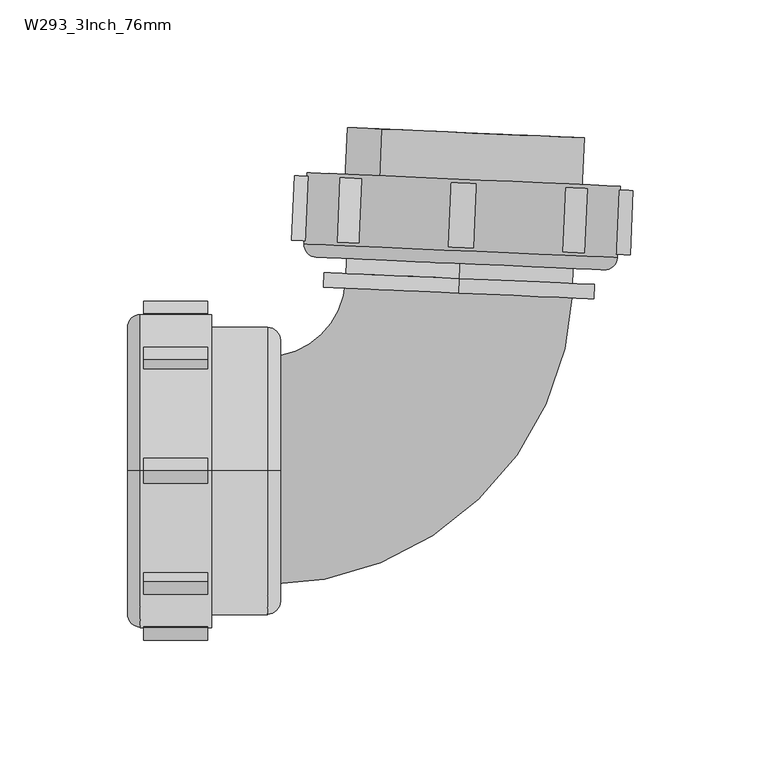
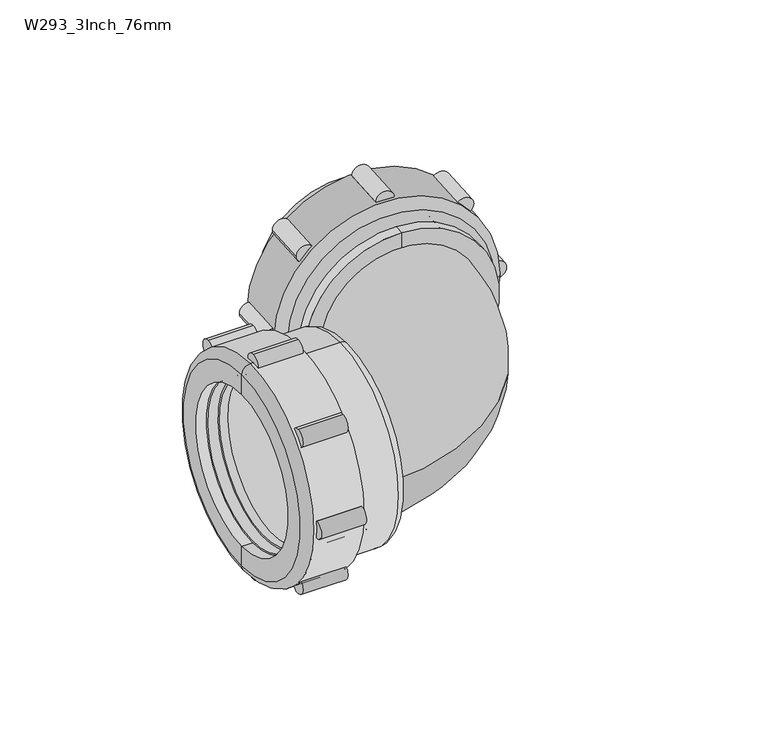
"""IFC4 building model written with IfcOpenShell, lengths in millimetres: pipe fitting geometry, Durapipe_PipeFitting_VulcatheneMechanical_92.5LooseNutSweepBend_W29 : W293_3Inch_76mm."""

from ifc_helpers import new_model, si_unit, point, frame, frame_2d, origin, place, context, project, spatial, polyline, circle_curve, ellipse_curve, trimmed, segment, composite_curve, outline, extrude, source, transform, mapped, element, save
from ifc_brep_helpers import plane_surface, cylinder_surface, revolved_surface, advanced_brep


def w293_3inch_76mm_a8444400(model_context):
    return source(origin(), model_context, "Body", "SolidModel", [
        advanced_brep(
        [(-32.1347694, 89.1243828, 35.9917352), (-27.4723065, 88.9208153, 31.3248304), (35.1177258, 86.1880755, -31.3248304), (39.7801886, 85.984508, -35.9917352), (37.5573536, 106.4008985, -32.8804653), (-28.1409872, 109.2693501, 32.8804653), (-27.0635883, 133.9458411, 32.8804653), (38.6347525, 131.0773896, -32.8804653), (37.0805982, 131.1452455, -31.3248304), (-25.509434, 133.8779853, 31.3248304), (35.5844532, 96.8778915, -31.3248304), (-27.005579, 99.6106313, 31.3248304), (34.9486628, 96.9056507, -30.6884343), (-26.3697886, 99.5828721, 30.6884343), (-27.2062282, 95.0150095, 31.3248304), (-26.5704378, 94.9872503, 30.6884343), (34.7480136, 92.3100288, -30.6884343), (35.383804, 92.2822696, -31.3248304)],
        [
            (0, 1),
            (1, 2, circle_curve(frame((3.8227096, 87.5544454, 0.0), z_axis=(0.04361938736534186, 0.9990482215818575, 0.0), x_axis=(0.7064337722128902, -0.030843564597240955, -0.7071067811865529)), 44.3)),
            (2, 3),
            (3, 0, circle_curve(frame((3.8227096, 87.5544454, 0.0), z_axis=(-0.04361938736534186, -0.9990482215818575, 0.0), x_axis=(0.7064337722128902, -0.030843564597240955, -0.7071067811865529)), 50.9)),
            (2, 1, circle_curve(frame((3.8227096, 87.5544454, 0.0), z_axis=(0.04361938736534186, 0.9990482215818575, 0.0), x_axis=(0.7064337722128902, -0.030843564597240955, -0.7071067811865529)), 44.3)),
            (0, 3, circle_curve(frame((3.8227096, 87.5544454, 0.0), z_axis=(-0.04361938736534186, -0.9990482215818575, 0.0), x_axis=(0.7064337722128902, -0.030843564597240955, -0.7071067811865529)), 50.9)),
            (3, 4),
            (4, 5, circle_curve(frame((4.7081832, 107.8351243, 0.0), z_axis=(-0.04361938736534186, -0.9990482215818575, 0.0), x_axis=(0.7064337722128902, -0.030843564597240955, -0.7071067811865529)), 46.5)),
            (5, 0),
            (5, 4, circle_curve(frame((4.7081832, 107.8351243, 0.0), z_axis=(-0.04361938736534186, -0.9990482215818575, 0.0), x_axis=(0.7064337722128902, -0.030843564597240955, -0.7071067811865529)), 46.5)),
            (6, 5),
            (4, 7),
            (7, 6, circle_curve(frame((5.7855821, 132.5116154, 0.0), z_axis=(-0.04361938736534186, -0.9990482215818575, 0.0), x_axis=(0.7064337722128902, -0.030843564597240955, -0.7071067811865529)), 46.5)),
            (6, 7, circle_curve(frame((5.7855821, 132.5116154, 0.0), z_axis=(-0.04361938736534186, -0.9990482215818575, 0.0), x_axis=(0.7064337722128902, -0.030843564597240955, -0.7071067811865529)), 46.5)),
            (7, 8),
            (8, 9, circle_curve(frame((5.7855821, 132.5116154, 0.0), z_axis=(-0.04361938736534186, -0.9990482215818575, 0.0), x_axis=(0.7064337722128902, -0.030843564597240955, -0.7071067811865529)), 44.3)),
            (9, 6),
            (9, 8, circle_curve(frame((5.7855821, 132.5116154, 0.0), z_axis=(-0.04361938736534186, -0.9990482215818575, 0.0), x_axis=(0.7064337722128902, -0.030843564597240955, -0.7071067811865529)), 44.3)),
            (8, 10),
            (10, 11, circle_curve(frame((4.2894371, 98.2442614, 0.0), z_axis=(-0.04361938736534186, -0.9990482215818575, 0.0), x_axis=(0.7064337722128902, -0.030843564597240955, -0.7071067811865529)), 44.3)),
            (11, 9),
            (11, 10, circle_curve(frame((4.2894371, 98.2442614, 0.0), z_axis=(-0.04361938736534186, -0.9990482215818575, 0.0), x_axis=(0.7064337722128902, -0.030843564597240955, -0.7071067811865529)), 44.3)),
            (10, 12),
            (12, 13, circle_curve(frame((4.2894371, 98.2442614, 0.0), z_axis=(-0.04361938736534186, -0.9990482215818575, 0.0), x_axis=(0.7064337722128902, -0.030843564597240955, -0.7071067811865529)), 43.4)),
            (13, 11),
            (13, 12, circle_curve(frame((4.2894371, 98.2442614, 0.0), z_axis=(-0.04361938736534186, -0.9990482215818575, 0.0), x_axis=(0.7064337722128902, -0.030843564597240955, -0.7071067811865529)), 43.4)),
            (14, 15),
            (15, 16, circle_curve(frame((4.0887879, 93.6486396, 0.0), z_axis=(0.04361938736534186, 0.9990482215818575, 0.0), x_axis=(0.7064337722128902, -0.030843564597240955, -0.7071067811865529)), 43.4)),
            (16, 17),
            (17, 14, circle_curve(frame((4.0887879, 93.6486396, 0.0), z_axis=(-0.04361938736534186, -0.9990482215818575, 0.0), x_axis=(0.7064337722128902, -0.030843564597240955, -0.7071067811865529)), 44.3)),
            (16, 15, circle_curve(frame((4.0887879, 93.6486396, 0.0), z_axis=(0.04361938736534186, 0.9990482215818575, 0.0), x_axis=(0.7064337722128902, -0.030843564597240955, -0.7071067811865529)), 43.4)),
            (14, 17, circle_curve(frame((4.0887879, 93.6486396, 0.0), z_axis=(-0.04361938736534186, -0.9990482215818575, 0.0), x_axis=(0.7064337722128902, -0.030843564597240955, -0.7071067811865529)), 44.3)),
            (1, 14),
            (17, 2),
            (12, 16),
            (15, 13),
        ],
        [
            plane_surface(frame((3.8227096, 87.5544454, 0.0), z_axis=(-0.04361938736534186, -0.9990482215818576, 0.0), x_axis=(0.7064337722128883, -0.030843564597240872, -0.707106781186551))),
            revolved_surface(polyline([(39.7801886, 85.984508, -35.9917352), (37.5573536, 106.4008985, -32.8804653)]), (3.6046127, 82.5592043, 0.0), (0.04361938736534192, 0.9990482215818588, 0.0)),
            cylinder_surface(frame((5.8759028, 134.5803003, 0.0), z_axis=(0.04361938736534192, 0.9990482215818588, 0.0), x_axis=(0.7064337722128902, -0.030843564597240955, -0.7071067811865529)), 46.5),
            plane_surface(frame((5.7855821, 132.5116154, 0.0), z_axis=(0.04361938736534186, 0.9990482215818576, 0.0), x_axis=(0.7064337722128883, -0.030843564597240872, -0.707106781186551))),
            revolved_surface(polyline([(37.08059818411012, 131.1452455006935, -31.324830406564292), (35.58445319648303, 96.87789147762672, -31.324830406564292)]), (5.9379442, 136.0012818, 0.0), (0.04361938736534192, 0.9990482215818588, 0.0)),
            plane_surface(frame((4.2894371, 98.2442614, 0.0), z_axis=(0.04361938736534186, 0.9990482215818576, 0.0), x_axis=(0.7064337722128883, -0.030843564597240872, -0.707106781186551))),
            plane_surface(frame((4.0887879, 93.6486396, 0.0), z_axis=(-0.04361938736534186, -0.9990482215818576, 0.0), x_axis=(0.7064337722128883, -0.030843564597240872, -0.707106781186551))),
            revolved_surface(polyline([(35.38380401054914, 92.28226968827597, -31.324830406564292), (35.117725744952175, 86.18807547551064, -31.324830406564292)]), (3.6046127, 82.5592043, 0.0), (0.04361938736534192, 0.9990482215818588, 0.0)),
            revolved_surface(polyline([(34.94866281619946, 96.90565069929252, -30.688434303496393), (34.74801363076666, 92.3100287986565, -30.688434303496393)]), (3.7543933, 85.9897436, 0.0), (0.04361938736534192, 0.9990482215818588, 0.0)),
        ],
        [
            (0, [[1, 2, 3, 4]]),
            (0, [[5, -1, 6, -3]]),
            (1, [[7, 8, 9, -4]]),
            (1, [[-9, 10, -7, -6]]),
            (2, [[11, -8, 12, 13]]),
            (2, [[-10, -11, 14, -12]]),
            (3, [[15, 16, 17, -13]]),
            (3, [[-17, 18, -15, -14]]),
            (4, [[-16, 19, 20, 21]]),
            (4, [[22, -19, -18, -21]]),
            (5, [[23, 24, 25, -20]]),
            (5, [[-25, 26, -23, -22]]),
            (6, [[27, 28, 29, 30]]),
            (6, [[-29, 31, -27, 32]]),
            (7, [[33, -30, 34, -2]]),
            (7, [[-34, -32, -33, -5]]),
            (8, [[-24, 35, -28, 36]]),
            (8, [[-31, -35, -26, -36]]),
        ],
    ),
        advanced_brep(
        [(-56.4541183, 116.9116252, 0.0), (-57.6754612, 88.938275, 0.0), (65.2074701, 83.5730904, 0.0), (66.4288129, 111.5464406, 0.0), (-47.9622085, 116.5408604, 0.0), (57.936903, 111.9172054, 0.0), (-52.898317, 83.724937, 0.0), (-41.4092625, 83.223314, 0.0), (48.5050775, 79.2975692, 0.0), (59.994132, 78.7959462, 0.0), (-49.1268461, 89.8662729, 0.0), (56.7722654, 85.2426179, 0.0), (-41.1344603, 89.5173178, 0.0), (48.7798796, 85.591573, 0.0)],
        [
            (0, 1),
            (1, 2, circle_curve(frame((3.7660044, 86.2556827, 0.0), z_axis=(0.0436193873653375, 0.9990482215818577, 0.0), x_axis=(0.9990482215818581, -0.04361938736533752, 0.0)), 61.5)),
            (2, 3),
            (3, 0, circle_curve(frame((4.9873473, 114.2290329, 0.0), z_axis=(-0.0436193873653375, -0.9990482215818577, 0.0), x_axis=(0.9990482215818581, -0.04361938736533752, 0.0)), 61.5)),
            (2, 1, circle_curve(frame((3.7660044, 86.2556827, 0.0), z_axis=(0.0436193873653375, 0.9990482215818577, 0.0), x_axis=(0.9990482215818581, -0.04361938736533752, 0.0)), 61.5)),
            (0, 3, circle_curve(frame((4.9873473, 114.2290329, 0.0), z_axis=(-0.0436193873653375, -0.9990482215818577, 0.0), x_axis=(0.9990482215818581, -0.04361938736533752, 0.0)), 61.5)),
            (4, 0),
            (3, 5),
            (5, 4, circle_curve(frame((4.9873473, 114.2290329, 0.0), z_axis=(-0.0436193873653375, -0.9990482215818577, 0.0), x_axis=(0.9990482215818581, -0.04361938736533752, 0.0)), 53.0)),
            (4, 5, circle_curve(frame((4.9873473, 114.2290329, 0.0), z_axis=(-0.0436193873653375, -0.9990482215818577, 0.0), x_axis=(0.9990482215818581, -0.04361938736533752, 0.0)), 53.0)),
            (6, 7),
            (7, 8, circle_curve(frame((3.5479075, 81.2604416, 0.0), z_axis=(0.0436193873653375, 0.9990482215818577, 0.0), x_axis=(0.9990482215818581, -0.04361938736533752, 0.0)), 45.0)),
            (8, 9),
            (9, 6, circle_curve(frame((3.5479075, 81.2604416, 0.0), z_axis=(-0.0436193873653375, -0.9990482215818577, 0.0), x_axis=(0.9990482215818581, -0.04361938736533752, 0.0)), 56.5)),
            (8, 7, circle_curve(frame((3.5479075, 81.2604416, 0.0), z_axis=(0.0436193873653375, 0.9990482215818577, 0.0), x_axis=(0.9990482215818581, -0.04361938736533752, 0.0)), 45.0)),
            (6, 9, circle_curve(frame((3.5479075, 81.2604416, 0.0), z_axis=(-0.0436193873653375, -0.9990482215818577, 0.0), x_axis=(0.9990482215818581, -0.04361938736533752, 0.0)), 56.5)),
            (1, 6, circle_curve(frame((-52.6802201, 88.7201781, 0.0), z_axis=(0.0, 0.0, 1.0000000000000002), x_axis=(-0.043619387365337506, -0.9990482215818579, 0.0)), 5.0)),
            (9, 2, circle_curve(frame((60.212229, 83.7911873, 0.0), z_axis=(0.0, 0.0, 1.0000000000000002), x_axis=(-0.043619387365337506, -0.9990482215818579, 0.0)), 5.0)),
            (10, 4),
            (5, 11),
            (11, 10, circle_curve(frame((3.8227096, 87.5544454, 0.0), z_axis=(-0.0436193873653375, -0.9990482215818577, 0.0), x_axis=(0.9990482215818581, -0.04361938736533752, 0.0)), 53.0)),
            (10, 11, circle_curve(frame((3.8227096, 87.5544454, 0.0), z_axis=(-0.0436193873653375, -0.9990482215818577, 0.0), x_axis=(0.9990482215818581, -0.04361938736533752, 0.0)), 53.0)),
            (12, 10),
            (11, 13),
            (13, 12, circle_curve(frame((3.8227096, 87.5544454, 0.0), z_axis=(-0.0436193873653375, -0.9990482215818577, 0.0), x_axis=(0.9990482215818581, -0.04361938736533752, 0.0)), 45.0)),
            (12, 13, circle_curve(frame((3.8227096, 87.5544454, 0.0), z_axis=(-0.0436193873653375, -0.9990482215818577, 0.0), x_axis=(0.9990482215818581, -0.04361938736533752, 0.0)), 45.0)),
            (7, 12),
            (13, 8),
        ],
        [
            cylinder_surface(frame((-64.5333116, -1478.0558393, 0.0), z_axis=(0.043619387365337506, 0.9990482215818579, 0.0), x_axis=(0.9990482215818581, -0.04361938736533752, 0.0)), 61.5),
            plane_surface(frame((4.9873473, 114.2290329, 0.0), z_axis=(0.0436193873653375, 0.9990482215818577, 0.0), x_axis=(0.9990482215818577, -0.0436193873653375, 0.0))),
            plane_surface(frame((3.5479075, 81.2604416, 0.0), z_axis=(-0.0436193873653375, -0.9990482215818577, 0.0), x_axis=(0.9990482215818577, -0.0436193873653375, 0.0))),
            revolved_surface(trimmed(ellipse_curve(frame((60.212229, 83.7911873, 0.0), z_axis=(0.0, 0.0, 1.0000000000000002), x_axis=(-0.043619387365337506, -0.9990482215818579, 0.0)), 5.0, 5.0), [point((59.994132, 78.7959462, 0.0))], [point((65.2074701, 83.5730904, 0.0))], True, "CARTESIAN"), (-64.5333116, -1478.0558393, 0.0), (0.043619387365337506, 0.9990482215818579, 0.0)),
            revolved_surface(polyline([(57.93690304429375, 111.9172053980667, 0.0), (56.77226539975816, 85.24261783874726, 0.0)]), (-64.5333116, -1478.0558393, 0.0), (0.043619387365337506, 0.9990482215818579, 0.0)),
            plane_surface(frame((3.8227096, 87.5544454, 0.0), z_axis=(0.0436193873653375, 0.9990482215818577, 0.0), x_axis=(0.9990482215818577, -0.0436193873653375, 0.0))),
            revolved_surface(polyline([(48.77987962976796, 85.59157299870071, 0.0), (48.50507748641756, 79.29756913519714, 0.0)]), (-64.5333116, -1478.0558393, 0.0), (0.043619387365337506, 0.9990482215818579, 0.0)),
        ],
        [
            (0, [[1, 2, 3, 4]]),
            (0, [[-3, 5, -1, 6]]),
            (1, [[7, -4, 8, 9]]),
            (1, [[-8, -6, -7, 10]]),
            (2, [[11, 12, 13, 14]]),
            (2, [[-13, 15, -11, 16]]),
            (3, [[17, -14, 18, -2]]),
            (3, [[-18, -16, -17, -5]]),
            (4, [[19, -9, 20, 21]]),
            (4, [[-20, -10, -19, 22]]),
            (5, [[23, -21, 24, 25]]),
            (5, [[-24, -22, -23, 26]]),
            (6, [[27, -25, 28, -12]]),
            (6, [[-28, -26, -27, -15]]),
        ],
    ),
        extrude(outline(composite_curve([segment(trimmed(circle_curve(frame_2d((0.0, 5.0)), 5.0), [point((0.0, 10.0))], [point((0.0, 0.0))], False, "CARTESIAN"), True, "CONTINUOUS"), segment(trimmed(circle_curve(frame_2d((0.0, 5.0)), 5.0), [point((0.0, 0.0))], [point((0.0, 10.0))], False, "CARTESIAN"), True, "CONTINUOUS")], self_intersect=False)), frame((8.8179507, 87.3363485, -61.5), z_axis=(0.0436193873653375, 0.9990482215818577, 0.0), x_axis=(0.0, 0.0, -1.0)), (0.0, 0.0, 1.0), 25.2),
        extrude(outline(composite_curve([segment(trimmed(circle_curve(frame_2d((-18.012933, -38.4870671)), 5.0), [point((-18.012933, -33.4870671))], [point((-18.012933, -43.4870671))], False, "CARTESIAN"), True, "CONTINUOUS"), segment(trimmed(circle_curve(frame_2d((-18.012933, -38.4870671)), 5.0), [point((-18.012933, -43.4870671))], [point((-18.012933, -33.4870671))], False, "CARTESIAN"), True, "CONTINUOUS")], self_intersect=False)), frame((8.8179507, 87.3363485, -61.5), z_axis=(0.0436193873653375, 0.9990482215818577, 0.0), x_axis=(0.0, 0.0, -1.0)), (0.0, 0.0, 1.0), 25.2),
        extrude(outline(composite_curve([segment(trimmed(circle_curve(frame_2d((-61.5, -56.5000001)), 5.0), [point((-61.5, -51.5000001))], [point((-61.5, -61.5000001))], False, "CARTESIAN"), True, "CONTINUOUS"), segment(trimmed(circle_curve(frame_2d((-61.5, -56.5000001)), 5.0), [point((-61.5, -61.5000001))], [point((-61.5, -51.5000001))], False, "CARTESIAN"), True, "CONTINUOUS")], self_intersect=False)), frame((8.8179507, 87.3363485, -61.5), z_axis=(0.0436193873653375, 0.9990482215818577, 0.0), x_axis=(0.0, 0.0, -1.0)), (0.0, 0.0, 1.0), 25.2),
        extrude(outline(composite_curve([segment(trimmed(circle_curve(frame_2d((-104.987067, -38.4870671)), 5.0), [point((-104.987067, -33.4870671))], [point((-104.987067, -43.4870671))], False, "CARTESIAN"), True, "CONTINUOUS"), segment(trimmed(circle_curve(frame_2d((-104.987067, -38.4870671)), 5.0), [point((-104.987067, -43.4870671))], [point((-104.987067, -33.4870671))], False, "CARTESIAN"), True, "CONTINUOUS")], self_intersect=False)), frame((8.8179507, 87.3363485, -61.5), z_axis=(0.0436193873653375, 0.9990482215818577, 0.0), x_axis=(0.0, 0.0, -1.0)), (0.0, 0.0, 1.0), 25.2),
        extrude(outline(composite_curve([segment(trimmed(circle_curve(frame_2d((-123.0, 5.0)), 5.0), [point((-123.0, 10.0))], [point((-123.0, 0.0))], False, "CARTESIAN"), True, "CONTINUOUS"), segment(trimmed(circle_curve(frame_2d((-123.0, 5.0)), 5.0), [point((-123.0, 0.0))], [point((-123.0, 10.0))], False, "CARTESIAN"), True, "CONTINUOUS")], self_intersect=False)), frame((8.8179507, 87.3363485, -61.5), z_axis=(0.0436193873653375, 0.9990482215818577, 0.0), x_axis=(0.0, 0.0, -1.0)), (0.0, 0.0, 1.0), 25.2),
        extrude(outline(composite_curve([segment(trimmed(circle_curve(frame_2d((-104.987067, 48.4870669)), 5.0), [point((-104.987067, 53.487067))], [point((-104.987067, 43.487067))], False, "CARTESIAN"), True, "CONTINUOUS"), segment(trimmed(circle_curve(frame_2d((-104.987067, 48.4870669)), 5.0), [point((-104.987067, 43.487067))], [point((-104.987067, 53.487067))], False, "CARTESIAN"), True, "CONTINUOUS")], self_intersect=False)), frame((8.8179507, 87.3363485, -61.5), z_axis=(0.0436193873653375, 0.9990482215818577, 0.0), x_axis=(0.0, 0.0, -1.0)), (0.0, 0.0, 1.0), 25.2),
        extrude(outline(composite_curve([segment(trimmed(circle_curve(frame_2d((-61.5, 66.5)), 5.0), [point((-61.5, 71.5))], [point((-61.5, 61.5))], False, "CARTESIAN"), True, "CONTINUOUS"), segment(trimmed(circle_curve(frame_2d((-61.5, 66.5)), 5.0), [point((-61.5, 61.5))], [point((-61.5, 71.5))], False, "CARTESIAN"), True, "CONTINUOUS")], self_intersect=False)), frame((8.8179507, 87.3363485, -61.5), z_axis=(0.0436193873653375, 0.9990482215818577, 0.0), x_axis=(0.0, 0.0, -1.0)), (0.0, 0.0, 1.0), 25.2),
        extrude(outline(composite_curve([segment(trimmed(circle_curve(frame_2d((-18.012933, 48.4870669)), 5.0), [point((-18.012933, 53.487067))], [point((-18.012933, 43.487067))], False, "CARTESIAN"), True, "CONTINUOUS"), segment(trimmed(circle_curve(frame_2d((-18.012933, 48.4870669)), 5.0), [point((-18.012933, 43.487067))], [point((-18.012933, 53.487067))], False, "CARTESIAN"), True, "CONTINUOUS")], self_intersect=False)), frame((8.8179507, 87.3363485, -61.5), z_axis=(0.0436193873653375, 0.9990482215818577, 0.0), x_axis=(0.0, 0.0, -1.0)), (0.0, 0.0, 1.0), 25.2),
        advanced_brep(
        [(5.7855821, 132.5116154, 44.55), (5.7855821, 132.5116154, -44.55), (5.7855821, 132.5116154, -35.8), (5.7855821, 132.5116154, 35.8), (3.2905531, 75.3660571, 44.55), (3.2905531, 75.3660571, -44.55), (3.2905531, 75.3660571, 53.2), (3.2905531, 75.3660571, -53.2), (3.0419226, 69.6714822, 53.2), (3.0419226, 69.6714822, -53.2), (3.0419226, 69.6714822, 35.8), (3.0419226, 69.6714822, -35.8)],
        [
            (0, 1, circle_curve(frame((5.7855821, 132.5116154, 0.0), z_axis=(0.04361938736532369, 0.9990482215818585, 0.0), x_axis=(0.0, 0.0, -1.0)), 44.55)),
            (1, 2),
            (2, 3, circle_curve(frame((5.7855821, 132.5116154, 0.0), z_axis=(-0.04361938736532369, -0.9990482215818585, 0.0), x_axis=(0.0, 0.0, -1.0)), 35.8)),
            (3, 0),
            (1, 0, circle_curve(frame((5.7855821, 132.5116154, 0.0), z_axis=(0.04361938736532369, 0.9990482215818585, 0.0), x_axis=(0.0, 0.0, -1.0)), 44.55)),
            (3, 2, circle_curve(frame((5.7855821, 132.5116154, 0.0), z_axis=(-0.04361938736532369, -0.9990482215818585, 0.0), x_axis=(0.0, 0.0, -1.0)), 35.8)),
            (4, 5, circle_curve(frame((3.2905531, 75.3660571, 0.0), z_axis=(0.04361938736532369, 0.9990482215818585, 0.0), x_axis=(0.0, 0.0, -1.0)), 44.55)),
            (5, 1),
            (0, 4),
            (5, 4, circle_curve(frame((3.2905531, 75.3660571, 0.0), z_axis=(0.04361938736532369, 0.9990482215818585, 0.0), x_axis=(0.0, 0.0, -1.0)), 44.55)),
            (6, 7, circle_curve(frame((3.2905531, 75.3660571, 0.0), z_axis=(0.04361938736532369, 0.9990482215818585, 0.0), x_axis=(0.0, 0.0, -1.0)), 53.2)),
            (7, 5),
            (4, 6),
            (7, 6, circle_curve(frame((3.2905531, 75.3660571, 0.0), z_axis=(0.04361938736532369, 0.9990482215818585, 0.0), x_axis=(0.0, 0.0, -1.0)), 53.2)),
            (8, 9, circle_curve(frame((3.0419226, 69.6714822, 0.0), z_axis=(0.04361938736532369, 0.9990482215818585, 0.0), x_axis=(0.0, 0.0, -1.0)), 53.2)),
            (9, 7),
            (6, 8),
            (9, 8, circle_curve(frame((3.0419226, 69.6714822, 0.0), z_axis=(0.04361938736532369, 0.9990482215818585, 0.0), x_axis=(0.0, 0.0, -1.0)), 53.2)),
            (10, 11, circle_curve(frame((3.0419226, 69.6714822, 0.0), z_axis=(0.04361938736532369, 0.9990482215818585, 0.0), x_axis=(0.0, 0.0, -1.0)), 35.8)),
            (11, 9),
            (8, 10),
            (11, 10, circle_curve(frame((3.0419226, 69.6714822, 0.0), z_axis=(0.04361938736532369, 0.9990482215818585, 0.0), x_axis=(0.0, 0.0, -1.0)), 35.8)),
            (2, 11),
            (10, 3),
        ],
        [
            plane_surface(frame((5.7855821, 132.5116154, 0.0), z_axis=(0.04361938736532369, 0.9990482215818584, 0.0), x_axis=(0.0, 0.0, -1.0))),
            cylinder_surface(frame((6.2217759, 142.5020976, 0.0), z_axis=(-0.043619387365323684, -0.9990482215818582, 0.0), x_axis=(0.0, 0.0, -1.0)), 44.55),
            plane_surface(frame((3.2905531, 75.3660571, 0.0), z_axis=(0.04361938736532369, 0.9990482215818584, 0.0), x_axis=(0.0, 0.0, -1.0))),
            cylinder_surface(frame((6.2217759, 142.5020976, 0.0), z_axis=(-0.043619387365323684, -0.9990482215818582, 0.0), x_axis=(0.0, 0.0, -1.0)), 53.2),
            plane_surface(frame((3.0419226, 69.6714822, 0.0), z_axis=(-0.04361938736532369, -0.9990482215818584, 0.0), x_axis=(0.0, 0.0, -1.0))),
            revolved_surface(polyline([(3.0419225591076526, 69.67148220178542, -35.8), (5.78558202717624, 132.51161540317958, -35.8)]), (6.2217759, 142.5020976, 0.0), (-0.043619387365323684, -0.9990482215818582, 0.0)),
        ],
        [
            (0, [[1, 2, 3, 4]]),
            (0, [[5, -4, 6, -2]]),
            (1, [[7, 8, -1, 9]]),
            (1, [[10, -9, -5, -8]]),
            (2, [[11, 12, -7, 13]]),
            (2, [[14, -13, -10, -12]]),
            (3, [[15, 16, -11, 17]]),
            (3, [[18, -17, -14, -16]]),
            (4, [[19, 20, -15, 21]]),
            (4, [[22, -21, -18, -20]]),
            (5, [[-3, 23, -19, 24]]),
            (5, [[-6, -24, -22, -23]]),
        ],
    ),
        advanced_brep(
        [(-120.6627141, -35.9917352, -35.9917352), (-120.6627141, 35.9917352, 35.9917352), (-120.6627141, 31.3248304, 31.3248304), (-120.6627141, -31.3248304, -31.3248304), (-100.3627141, -32.8804653, -32.8804653), (-100.3627141, 32.8804653, 32.8804653), (-75.6627141, -32.8804653, -32.8804653), (-75.6627141, 32.8804653, 32.8804653), (-75.6627141, -31.3248304, -31.3248304), (-75.6627141, 31.3248304, 31.3248304), (-109.9627141, -31.3248304, -31.3248304), (-109.9627141, 31.3248304, 31.3248304), (-109.9627141, -30.6884343, -30.6884343), (-109.9627141, 30.6884343, 30.6884343), (-114.5627141, -31.3248304, -31.3248304), (-114.5627141, 31.3248304, 31.3248304), (-114.5627141, 30.6884343, 30.6884343), (-114.5627141, -30.6884343, -30.6884343)],
        [
            (0, 1, circle_curve(frame((-120.6627141, 0.0, 0.0), z_axis=(-1.0, 0.0, 0.0), x_axis=(0.0, 0.7071067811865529, 0.7071067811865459)), 50.9)),
            (1, 2),
            (2, 3, circle_curve(frame((-120.6627141, 0.0, 0.0), z_axis=(1.0, 0.0, 0.0), x_axis=(0.0, 0.7071067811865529, 0.7071067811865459)), 44.3)),
            (3, 0),
            (1, 0, circle_curve(frame((-120.6627141, 0.0, 0.0), z_axis=(-1.0, 0.0, 0.0), x_axis=(0.0, 0.7071067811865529, 0.7071067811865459)), 50.9)),
            (3, 2, circle_curve(frame((-120.6627141, 0.0, 0.0), z_axis=(1.0, 0.0, 0.0), x_axis=(0.0, 0.7071067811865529, 0.7071067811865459)), 44.3)),
            (0, 4),
            (4, 5, circle_curve(frame((-100.3627141, 0.0, 0.0), z_axis=(-1.0, 0.0, 0.0), x_axis=(0.0, 0.7071067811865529, 0.7071067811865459)), 46.5)),
            (5, 1),
            (5, 4, circle_curve(frame((-100.3627141, 0.0, 0.0), z_axis=(-1.0, 0.0, 0.0), x_axis=(0.0, 0.7071067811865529, 0.7071067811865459)), 46.5)),
            (6, 7, circle_curve(frame((-75.6627141, 0.0, 0.0), z_axis=(-1.0, 0.0, 0.0), x_axis=(0.0, 0.7071067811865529, 0.7071067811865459)), 46.5)),
            (7, 5),
            (4, 6),
            (7, 6, circle_curve(frame((-75.6627141, 0.0, 0.0), z_axis=(-1.0, 0.0, 0.0), x_axis=(0.0, 0.7071067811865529, 0.7071067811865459)), 46.5)),
            (6, 8),
            (8, 9, circle_curve(frame((-75.6627141, 0.0, 0.0), z_axis=(-1.0, 0.0, 0.0), x_axis=(0.0, 0.7071067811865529, 0.7071067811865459)), 44.3)),
            (9, 7),
            (9, 8, circle_curve(frame((-75.6627141, 0.0, 0.0), z_axis=(-1.0, 0.0, 0.0), x_axis=(0.0, 0.7071067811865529, 0.7071067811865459)), 44.3)),
            (8, 10),
            (10, 11, circle_curve(frame((-109.9627141, 0.0, 0.0), z_axis=(-1.0, 0.0, 0.0), x_axis=(0.0, 0.7071067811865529, 0.7071067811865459)), 44.3)),
            (11, 9),
            (11, 10, circle_curve(frame((-109.9627141, 0.0, 0.0), z_axis=(-1.0, 0.0, 0.0), x_axis=(0.0, 0.7071067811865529, 0.7071067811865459)), 44.3)),
            (10, 12),
            (12, 13, circle_curve(frame((-109.9627141, 0.0, 0.0), z_axis=(-1.0, 0.0, 0.0), x_axis=(0.0, 0.7071067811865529, 0.7071067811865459)), 43.4)),
            (13, 11),
            (13, 12, circle_curve(frame((-109.9627141, 0.0, 0.0), z_axis=(-1.0, 0.0, 0.0), x_axis=(0.0, 0.7071067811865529, 0.7071067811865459)), 43.4)),
            (14, 15, circle_curve(frame((-114.5627141, 0.0, 0.0), z_axis=(-1.0, 0.0, 0.0), x_axis=(0.0, 0.7071067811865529, 0.7071067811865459)), 44.3)),
            (15, 16),
            (16, 17, circle_curve(frame((-114.5627141, 0.0, 0.0), z_axis=(1.0, 0.0, 0.0), x_axis=(0.0, 0.7071067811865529, 0.7071067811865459)), 43.4)),
            (17, 14),
            (15, 14, circle_curve(frame((-114.5627141, 0.0, 0.0), z_axis=(-1.0, 0.0, 0.0), x_axis=(0.0, 0.7071067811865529, 0.7071067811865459)), 44.3)),
            (17, 16, circle_curve(frame((-114.5627141, 0.0, 0.0), z_axis=(1.0, 0.0, 0.0), x_axis=(0.0, 0.7071067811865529, 0.7071067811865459)), 43.4)),
            (2, 15),
            (14, 3),
            (12, 17),
            (16, 13),
        ],
        [
            plane_surface(frame((-120.6627141, 0.0, 0.0), z_axis=(-1.0, 0.0, 0.0), x_axis=(0.0, 0.707106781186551, 0.707106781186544))),
            revolved_surface(polyline([(-120.6627141, 35.9917352, 35.9917352), (-100.3627141, 32.8804653, 32.8804653)]), (-125.6627141, 0.0, 0.0), (1.0000000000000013, 0.0, 0.0)),
            cylinder_surface(frame((-73.5920584, 0.0, 0.0), z_axis=(1.0000000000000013, 0.0, 0.0), x_axis=(0.0, 0.7071067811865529, 0.7071067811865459)), 46.5),
            plane_surface(frame((-75.6627141, 0.0, 0.0), z_axis=(1.0, 0.0, 0.0), x_axis=(0.0, 0.707106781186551, 0.707106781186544))),
            revolved_surface(polyline([(-75.66271410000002, 31.324830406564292, 31.324830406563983), (-109.9627141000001, 31.324830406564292, 31.324830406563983)]), (-72.1697231, 0.0, 0.0), (1.0000000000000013, 0.0, 0.0)),
            plane_surface(frame((-109.9627141, 0.0, 0.0), z_axis=(1.0, 0.0, 0.0), x_axis=(0.0, 0.707106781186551, 0.707106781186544))),
            plane_surface(frame((-114.5627141, 0.0, 0.0), z_axis=(-1.0, 0.0, 0.0), x_axis=(0.0, 0.707106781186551, 0.707106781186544))),
            revolved_surface(polyline([(-114.56271409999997, 31.324830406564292, 31.324830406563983), (-120.66271409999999, 31.324830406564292, 31.324830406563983)]), (-125.6627141, 0.0, 0.0), (1.0000000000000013, 0.0, 0.0)),
            revolved_surface(polyline([(-109.96271409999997, 30.688434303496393, 30.68843430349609), (-114.56271409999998, 30.688434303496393, 30.68843430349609)]), (-122.2289065, 0.0, 0.0), (1.0000000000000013, 0.0, 0.0)),
        ],
        [
            (0, [[1, 2, 3, 4]]),
            (0, [[-2, 5, -4, 6]]),
            (1, [[-1, 7, 8, 9]]),
            (1, [[-5, -9, 10, -7]]),
            (2, [[11, 12, -8, 13]]),
            (2, [[-12, 14, -13, -10]]),
            (3, [[-11, 15, 16, 17]]),
            (3, [[-14, -17, 18, -15]]),
            (4, [[19, 20, 21, -16]]),
            (4, [[-19, -18, -21, 22]]),
            (5, [[-20, 23, 24, 25]]),
            (5, [[-22, -25, 26, -23]]),
            (6, [[27, 28, 29, 30]]),
            (6, [[31, -30, 32, -28]]),
            (7, [[-3, 33, -27, 34]]),
            (7, [[-6, -34, -31, -33]]),
            (8, [[35, -29, 36, -24]]),
            (8, [[-35, -26, -36, -32]]),
        ],
    ),
        advanced_brep(
        [(-93.9627141, 0.0, -61.5), (-93.9627141, 0.0, 61.5), (-121.9627141, 0.0, 61.5), (-121.9627141, 0.0, -61.5), (-93.9627141, 0.0, -56.5), (-93.9627141, 0.0, 56.5), (-126.9627141, 0.0, -56.5), (-126.9627141, 0.0, 56.5), (-126.9627141, 0.0, 45.0), (-126.9627141, 0.0, -45.0), (-120.6627141, 0.0, -53.0), (-120.6627141, 0.0, 53.0), (-72.5627141, 0.0, 53.0), (-72.5627141, 0.0, -53.0), (-120.6627141, 0.0, -45.0), (-120.6627141, 0.0, 45.0), (-71.9627141, 0.0, -56.5), (-71.9627141, 0.0, 56.5), (-66.9627141, 0.0, -51.5), (-66.9627141, 0.0, 51.5), (-66.9627141, 0.0, 0.0), (-72.5627141, 0.0, 0.0)],
        [
            (0, 1, circle_curve(frame((-93.9627141, 0.0, 0.0), z_axis=(-1.0, 0.0, 0.0), x_axis=(0.0, 0.0, 1.0000000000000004)), 61.5)),
            (1, 2),
            (2, 3, circle_curve(frame((-121.9627141, 0.0, 0.0), z_axis=(1.0, 0.0, 0.0), x_axis=(0.0, 0.0, 1.0000000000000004)), 61.5)),
            (3, 0),
            (1, 0, circle_curve(frame((-93.9627141, 0.0, 0.0), z_axis=(-1.0, 0.0, 0.0), x_axis=(0.0, 0.0, 1.0000000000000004)), 61.5)),
            (3, 2, circle_curve(frame((-121.9627141, 0.0, 0.0), z_axis=(1.0, 0.0, 0.0), x_axis=(0.0, 0.0, 1.0000000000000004)), 61.5)),
            (4, 5, circle_curve(frame((-93.9627141, 0.0, 0.0), z_axis=(-1.0, 0.0, 0.0), x_axis=(0.0, 0.0, 1.0000000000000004)), 56.5)),
            (5, 1),
            (0, 4),
            (5, 4, circle_curve(frame((-93.9627141, 0.0, 0.0), z_axis=(-1.0, 0.0, 0.0), x_axis=(0.0, 0.0, 1.0000000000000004)), 56.5)),
            (6, 7, circle_curve(frame((-126.9627141, 0.0, 0.0), z_axis=(-1.0, 0.0, 0.0), x_axis=(0.0, 0.0, 1.0000000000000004)), 56.5)),
            (7, 8),
            (8, 9, circle_curve(frame((-126.9627141, 0.0, 0.0), z_axis=(1.0, 0.0, 0.0), x_axis=(0.0, 0.0, 1.0000000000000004)), 45.0)),
            (9, 6),
            (7, 6, circle_curve(frame((-126.9627141, 0.0, 0.0), z_axis=(-1.0, 0.0, 0.0), x_axis=(0.0, 0.0, 1.0000000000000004)), 56.5)),
            (9, 8, circle_curve(frame((-126.9627141, 0.0, 0.0), z_axis=(1.0, 0.0, 0.0), x_axis=(0.0, 0.0, 1.0000000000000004)), 45.0)),
            (2, 7, circle_curve(frame((-121.9627141, 0.0, 56.5), z_axis=(0.0, -1.0000000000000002, 0.0), x_axis=(-1.0000000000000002, 0.0, 0.0)), 5.0)),
            (6, 3, circle_curve(frame((-121.9627141, 0.0, -56.5), z_axis=(0.0, -1.0000000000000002, 0.0), x_axis=(-1.0000000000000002, 0.0, 0.0)), 5.0)),
            (10, 11, circle_curve(frame((-120.6627141, 0.0, 0.0), z_axis=(-1.0, 0.0, 0.0), x_axis=(0.0, 0.0, 1.0000000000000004)), 53.0)),
            (11, 12),
            (12, 13, circle_curve(frame((-72.5627141, 0.0, 0.0), z_axis=(1.0, 0.0, 0.0), x_axis=(0.0, 0.0, 1.0000000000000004)), 53.0)),
            (13, 10),
            (11, 10, circle_curve(frame((-120.6627141, 0.0, 0.0), z_axis=(-1.0, 0.0, 0.0), x_axis=(0.0, 0.0, 1.0000000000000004)), 53.0)),
            (13, 12, circle_curve(frame((-72.5627141, 0.0, 0.0), z_axis=(1.0, 0.0, 0.0), x_axis=(0.0, 0.0, 1.0000000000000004)), 53.0)),
            (14, 15, circle_curve(frame((-120.6627141, 0.0, 0.0), z_axis=(-1.0, 0.0, 0.0), x_axis=(0.0, 0.0, 1.0000000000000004)), 45.0)),
            (15, 11),
            (10, 14),
            (15, 14, circle_curve(frame((-120.6627141, 0.0, 0.0), z_axis=(-1.0, 0.0, 0.0), x_axis=(0.0, 0.0, 1.0000000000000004)), 45.0)),
            (8, 15),
            (14, 9),
            (16, 17, circle_curve(frame((-71.9627141, 0.0, 0.0), z_axis=(-1.0, 0.0, 0.0), x_axis=(0.0, 0.0, 1.0000000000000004)), 56.5)),
            (17, 5),
            (4, 16),
            (17, 16, circle_curve(frame((-71.9627141, 0.0, 0.0), z_axis=(-1.0, 0.0, 0.0), x_axis=(0.0, 0.0, 1.0000000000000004)), 56.5)),
            (18, 19, circle_curve(frame((-66.9627141, 0.0, 0.0), z_axis=(-1.0, 0.0, 0.0), x_axis=(0.0, 0.0, 1.0000000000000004)), 51.5)),
            (19, 17, circle_curve(frame((-71.9627141, 0.0, 51.5), z_axis=(0.0, -1.0000000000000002, 0.0), x_axis=(-1.0000000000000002, 0.0, 0.0)), 5.0)),
            (16, 18, circle_curve(frame((-71.9627141, 0.0, -51.5), z_axis=(0.0, -1.0000000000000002, 0.0), x_axis=(-1.0000000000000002, 0.0, 0.0)), 5.0)),
            (19, 18, circle_curve(frame((-66.9627141, 0.0, 0.0), z_axis=(-1.0, 0.0, 0.0), x_axis=(0.0, 0.0, 1.0000000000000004)), 51.5)),
            (20, 19),
            (18, 20),
            (12, 21),
            (21, 13),
        ],
        [
            cylinder_surface(frame((-1687.7645324, 0.0, 0.0), z_axis=(1.0000000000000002, 0.0, 0.0), x_axis=(0.0, 0.0, 1.0000000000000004)), 61.5),
            plane_surface(frame((-93.9627141, 0.0, 0.0), z_axis=(1.0, 0.0, 0.0), x_axis=(0.0, 0.0, 1.0))),
            plane_surface(frame((-126.9627141, 0.0, 0.0), z_axis=(-1.0, 0.0, 0.0), x_axis=(0.0, 0.0, 1.0))),
            revolved_surface(trimmed(ellipse_curve(frame((-121.9627141, 0.0, 56.5), z_axis=(0.0, 1.0000000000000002, 0.0), x_axis=(-1.0000000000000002, 0.0, 0.0)), 5.0, 5.0), [point((-126.9627141, 0.0, 56.5))], [point((-121.9627141, 0.0, 61.5))], True, "CARTESIAN"), (-1687.7645324, 0.0, 0.0), (1.0000000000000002, 0.0, 0.0)),
            revolved_surface(polyline([(-72.56271409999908, 0.0, 53.00000000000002), (-120.662714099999, 0.0, 53.00000000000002)]), (-1687.7645324, 0.0, 0.0), (1.0000000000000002, 0.0, 0.0)),
            plane_surface(frame((-120.6627141, 0.0, 0.0), z_axis=(1.0, 0.0, 0.0), x_axis=(0.0, 0.0, 1.0))),
            revolved_surface(polyline([(-120.662714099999, 0.0, 45.00000000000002), (-126.96271409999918, 0.0, 45.00000000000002)]), (-1687.7645324, 0.0, 0.0), (1.0000000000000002, 0.0, 0.0)),
            cylinder_surface(frame((-1687.7645324, 0.0, 0.0), z_axis=(1.0000000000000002, 0.0, 0.0), x_axis=(0.0, 0.0, 1.0000000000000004)), 56.5),
            revolved_surface(trimmed(ellipse_curve(frame((-71.9627141, 0.0, 51.5), z_axis=(0.0, 1.0000000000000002, 0.0), x_axis=(-1.0000000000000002, 0.0, 0.0)), 5.0, 5.0), [point((-71.9627141, 0.0, 56.5))], [point((-66.9627141, 0.0, 51.5))], True, "CARTESIAN"), (-1687.7645324, 0.0, 0.0), (1.0000000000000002, 0.0, 0.0)),
            plane_surface(frame((-66.9627141, 0.0, 0.0), z_axis=(1.0, 0.0, 0.0), x_axis=(0.0, 0.0, 1.0))),
            plane_surface(frame((-72.5627141, 0.0, 0.0), z_axis=(-1.0, 0.0, 0.0), x_axis=(0.0, 0.0, 1.0))),
        ],
        [
            (0, [[1, 2, 3, 4]]),
            (0, [[5, -4, 6, -2]]),
            (1, [[7, 8, -1, 9]]),
            (1, [[10, -9, -5, -8]]),
            (2, [[11, 12, 13, 14]]),
            (2, [[15, -14, 16, -12]]),
            (3, [[-3, 17, -11, 18]]),
            (3, [[-6, -18, -15, -17]]),
            (4, [[19, 20, 21, 22]]),
            (4, [[23, -22, 24, -20]]),
            (5, [[25, 26, -19, 27]]),
            (5, [[28, -27, -23, -26]]),
            (6, [[-13, 29, -25, 30]]),
            (6, [[-16, -30, -28, -29]]),
            (7, [[31, 32, -7, 33]]),
            (7, [[34, -33, -10, -32]]),
            (8, [[35, 36, -31, 37]]),
            (8, [[38, -37, -34, -36]]),
            (9, [[39, -35, 40]]),
            (9, [[-40, -38, -39]]),
            (10, [[-21, 41, 42]]),
            (10, [[-24, -42, -41]]),
        ],
    ),
        extrude(outline(composite_curve([segment(trimmed(circle_curve(frame_2d((61.5, 0.0)), 5.0), [point((61.5, -5.0))], [point((61.5, 5.0))], False, "CARTESIAN"), True, "CONTINUOUS"), segment(trimmed(circle_curve(frame_2d((61.5, 0.0)), 5.0), [point((61.5, 5.0))], [point((61.5, -5.0))], False, "CARTESIAN"), True, "CONTINUOUS")], self_intersect=False)), frame((-120.6627141, 0.0, 0.0), z_axis=(1.0, 0.0, 0.0), x_axis=(0.0, 1.0, 0.0)), (0.0, 0.0, 1.0), 25.2),
        extrude(outline(composite_curve([segment(trimmed(circle_curve(frame_2d((43.487067, 43.487067)), 5.0), [point((43.487067, 38.487067))], [point((43.487067, 48.487067))], False, "CARTESIAN"), True, "CONTINUOUS"), segment(trimmed(circle_curve(frame_2d((43.487067, 43.487067)), 5.0), [point((43.487067, 48.487067))], [point((43.487067, 38.487067))], False, "CARTESIAN"), True, "CONTINUOUS")], self_intersect=False)), frame((-120.6627141, 0.0, 0.0), z_axis=(1.0, 0.0, 0.0), x_axis=(0.0, 1.0, 0.0)), (0.0, 0.0, 1.0), 25.2),
        extrude(outline(composite_curve([segment(trimmed(circle_curve(frame_2d((0.0, 61.5)), 5.0), [point((0.0, 56.5))], [point((0.0, 66.5))], False, "CARTESIAN"), True, "CONTINUOUS"), segment(trimmed(circle_curve(frame_2d((0.0, 61.5)), 5.0), [point((0.0, 66.5))], [point((0.0, 56.5))], False, "CARTESIAN"), True, "CONTINUOUS")], self_intersect=False)), frame((-120.6627141, 0.0, 0.0), z_axis=(1.0, 0.0, 0.0), x_axis=(0.0, 1.0, 0.0)), (0.0, 0.0, 1.0), 25.2),
        extrude(outline(composite_curve([segment(trimmed(circle_curve(frame_2d((-43.487067, 43.487067)), 5.0), [point((-43.487067, 38.487067))], [point((-43.487067, 48.487067))], False, "CARTESIAN"), True, "CONTINUOUS"), segment(trimmed(circle_curve(frame_2d((-43.487067, 43.487067)), 5.0), [point((-43.487067, 48.487067))], [point((-43.487067, 38.487067))], False, "CARTESIAN"), True, "CONTINUOUS")], self_intersect=False)), frame((-120.6627141, 0.0, 0.0), z_axis=(1.0, 0.0, 0.0), x_axis=(0.0, 1.0, 0.0)), (0.0, 0.0, 1.0), 25.2),
        extrude(outline(composite_curve([segment(trimmed(circle_curve(frame_2d((-61.5, 0.0)), 5.0), [point((-61.5, -5.0))], [point((-61.5, 5.0))], False, "CARTESIAN"), True, "CONTINUOUS"), segment(trimmed(circle_curve(frame_2d((-61.5, 0.0)), 5.0), [point((-61.5, 5.0))], [point((-61.5, -5.0))], False, "CARTESIAN"), True, "CONTINUOUS")], self_intersect=False)), frame((-120.6627141, 0.0, 0.0), z_axis=(1.0, 0.0, 0.0), x_axis=(0.0, 1.0, 0.0)), (0.0, 0.0, 1.0), 25.2),
        extrude(outline(composite_curve([segment(trimmed(circle_curve(frame_2d((-43.487067, -43.487067)), 5.0), [point((-43.487067, -48.487067))], [point((-43.487067, -38.487067))], False, "CARTESIAN"), True, "CONTINUOUS"), segment(trimmed(circle_curve(frame_2d((-43.487067, -43.487067)), 5.0), [point((-43.487067, -38.487067))], [point((-43.487067, -48.487067))], False, "CARTESIAN"), True, "CONTINUOUS")], self_intersect=False)), frame((-120.6627141, 0.0, 0.0), z_axis=(1.0, 0.0, 0.0), x_axis=(0.0, 1.0, 0.0)), (0.0, 0.0, 1.0), 25.2),
        extrude(outline(composite_curve([segment(trimmed(circle_curve(frame_2d((0.0, -61.5)), 5.0), [point((0.0, -66.5))], [point((0.0, -56.5))], False, "CARTESIAN"), True, "CONTINUOUS"), segment(trimmed(circle_curve(frame_2d((0.0, -61.5)), 5.0), [point((0.0, -56.5))], [point((0.0, -66.5))], False, "CARTESIAN"), True, "CONTINUOUS")], self_intersect=False)), frame((-120.6627141, 0.0, 0.0), z_axis=(1.0, 0.0, 0.0), x_axis=(0.0, 1.0, 0.0)), (0.0, 0.0, 1.0), 25.2),
        extrude(outline(composite_curve([segment(trimmed(circle_curve(frame_2d((43.487067, -43.487067)), 5.0), [point((43.487067, -48.487067))], [point((43.487067, -38.487067))], False, "CARTESIAN"), True, "CONTINUOUS"), segment(trimmed(circle_curve(frame_2d((43.487067, -43.487067)), 5.0), [point((43.487067, -38.487067))], [point((43.487067, -48.487067))], False, "CARTESIAN"), True, "CONTINUOUS")], self_intersect=False)), frame((-120.6627141, 0.0, 0.0), z_axis=(1.0, 0.0, 0.0), x_axis=(0.0, 1.0, 0.0)), (0.0, 0.0, 1.0), 25.2),
        advanced_brep(
        [(-72.5627141, -44.65, 0.0), (-72.5627141, 44.65, 0.0), (47.7726442, 70.5460448, 0.0), (-41.442362, 74.4412561, 0.0)],
        [
            (0, 1, circle_curve(frame((-72.5627141, 0.0, 0.0), z_axis=(-1.0, 0.0, 0.0), x_axis=(0.0, 1.0, 0.0)), 44.65)),
            (1, 0, circle_curve(frame((-72.5627141, 0.0, 0.0), z_axis=(-1.0, 0.0, 0.0), x_axis=(0.0, 1.0, 0.0)), 44.65)),
            (2, 3, circle_curve(frame((3.1651411, 72.4936504, 0.0), z_axis=(0.0436193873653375, 0.9990482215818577, 0.0), x_axis=(-0.9990482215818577, 0.0436193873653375, 0.0)), 44.65)),
            (3, 2, circle_curve(frame((3.1651411, 72.4936504, 0.0), z_axis=(0.0436193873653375, 0.9990482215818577, 0.0), x_axis=(-0.9990482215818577, 0.0436193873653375, 0.0)), 44.65)),
            (3, 1, circle_curve(frame((-72.5627141, 75.8, 0.0), z_axis=(0.0, 0.0, -1.0), x_axis=(0.0, -1.0, 0.0)), 31.15)),
            (0, 2, circle_curve(frame((-72.5627141, 75.8, 0.0), z_axis=(0.0, 0.0, 1.0), x_axis=(0.0, -1.0, 0.0)), 120.45)),
        ],
        [
            plane_surface(frame((-72.5627141, 0.0, 0.0), z_axis=(-1.0, 0.0, 0.0), x_axis=(0.0, 0.0, 1.0))),
            plane_surface(frame((3.1651411, 72.4936504, 0.0), z_axis=(0.0436193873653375, 0.9990482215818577, 0.0), x_axis=(0.0, 0.0, 1.0))),
            revolved_surface(trimmed(ellipse_curve(frame((-72.5627141, 0.0, 0.0), z_axis=(-1.0, 0.0, 0.0), x_axis=(0.0, 1.0, 0.0)), 44.65, 44.65), [point((-72.5627141, -44.65, 0.0))], [point((-72.5627141, 44.65, 0.0))], True, "CARTESIAN"), (-72.5627141, 75.8, 0.0), (0.0, 0.0, 1.0)),
            revolved_surface(trimmed(ellipse_curve(frame((-72.5627141, 0.0, 0.0), z_axis=(-1.0, 0.0, 0.0), x_axis=(0.0, 1.0, 0.0)), 44.65, 44.65), [point((-72.5627141, 44.65, 0.0))], [point((-72.5627141, -44.65, 0.0))], True, "CARTESIAN"), (-72.5627141, 75.8, 0.0), (0.0, 0.0, 1.0)),
        ],
        [
            (0, [[1, 2]]),
            (1, [[3, 4]]),
            (2, [[5, -1, 6, -4]]),
            (3, [[-6, -2, -5, -3]]),
        ],
    ),
    ])


if __name__ == "__main__":
    model = new_model("IFC4")
    model_context = context("Model", 3, world=origin())
    ifc_project = project(units=[si_unit("LENGTHUNIT", "METRE", prefix="MILLI")], contexts=[model_context])
    site = spatial("IfcSite", under=ifc_project)
    building = spatial("IfcBuilding", under=site)
    placement = place(None, origin())
    w293_3inch_76mm_shape = w293_3inch_76mm_a8444400(model_context)
    element("IfcPipeFitting", 1, ObjectType="Durapipe_PipeFitting_VulcatheneMechanical_92.5LooseNutSweepBend_W29 : W293_3Inch_76mm", at=placement, inside=building, context=model_context, shape_type="MappedRepresentation", body=[
        mapped(w293_3inch_76mm_shape, transform((0.0, 0.0, 0.0), x_axis=(1.0, 0.0, 0.0), y_axis=(0.0, 1.0, 0.0), z_axis=(0.0, 0.0, 1.0))),
    ])
    save(model, "model.ifc")
